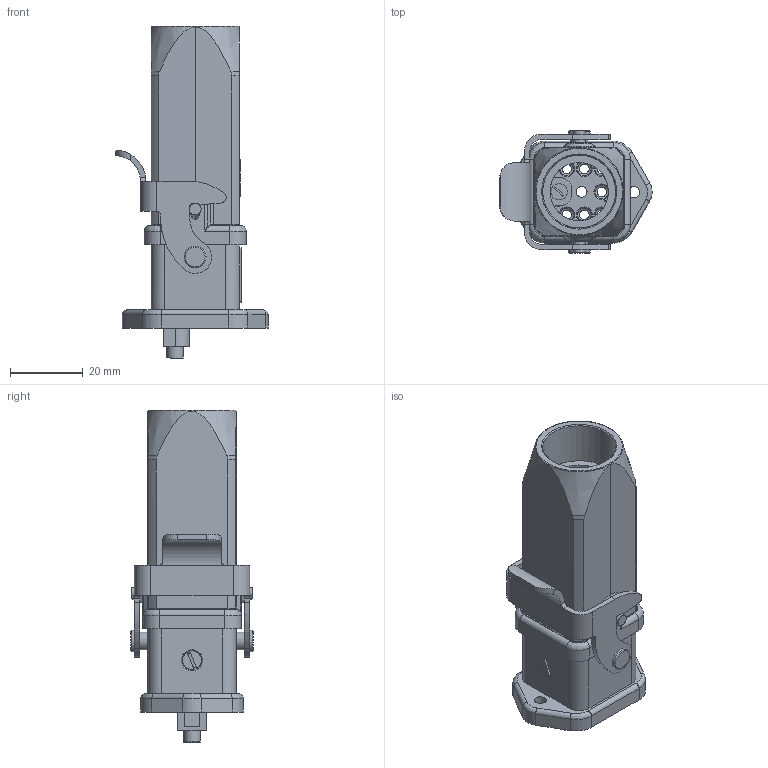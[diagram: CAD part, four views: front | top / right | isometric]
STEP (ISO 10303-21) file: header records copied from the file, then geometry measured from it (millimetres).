
FILE_DESCRIPTION(/* description */ (''),/* implementation_level */ '2;1');
FILE_NAME(/* name */ '100574313ugm000_a.stp',/* time_stamp */ '2022-03-11T20:01:53+01:00',/* author */ (''),/* organization */ (''),/* preprocessor_version */ 'ST-DEVELOPER v16.7',/* originating_system */ 'SIEMENS PLM Software NX 1911',/* authorisation */ '');
FILE_SCHEMA (('AUTOMOTIVE_DESIGN { 1 0 10303 214 3 1 1 1 }'));
Products named in the file (1): 100574313ugm000_a
Bounding box: 41.76 x 33.6 x 91.01 mm (x, y, z)
Volume: 31883.8 mm3; surface area: 31496 mm2
Topology: 3 solids, 18 shells, 1749 faces, 4458 edges, 3006 vertices
Faces by surface type: plane 1009, cylinder 285, extrusion 204, bspline 161, cone 87, torus 2, sphere 1
Full cylindrical faces by diameter (mm): 0.33 x1, 0.39 x1, 0.66 x1, 0.78 x1, 0.95 x1, 1.05 x1, 1.4 x2, 1.6 x2, 2 x2, 2.3 x2, 2.5 x3, 2.6 x4, 2.62 x14, 2.85 x1, 3 x10, 3.05 x2, 3.2 x2, 3.24 x7, 3.4 x7, 3.67 x7, 4.3 x14, 4.5 x2, 4.7 x2, 4.8 x2, 5 x2, 5.8 x2, 6 x2, 16 x1, 20 x1
Entity records: 71646 total; most frequent: CARTESIAN_POINT 22153, ORIENTED_EDGE 8270, DIRECTION 6608, EDGE_CURVE 4135, VERTEX_POINT 2795, VECTOR 2348, EDGE_LOOP 2151, LINE 2144
